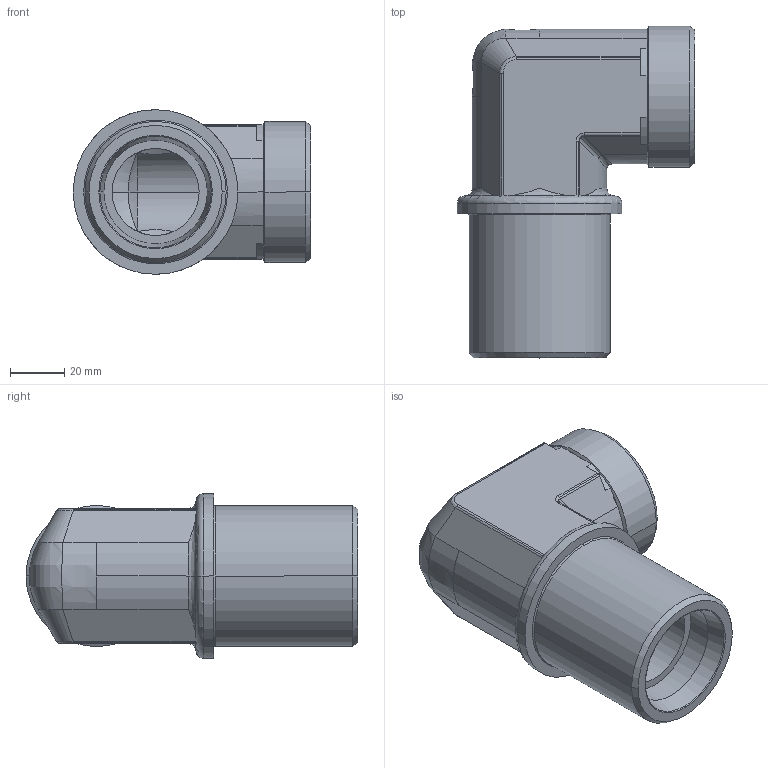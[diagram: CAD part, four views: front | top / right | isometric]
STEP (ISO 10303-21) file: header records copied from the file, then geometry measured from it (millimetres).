
FILE_DESCRIPTION((''),'2;1');
FILE_NAME('103723.stp','2007-10-31T11:45:12',(''),(''),'AutoCAD STEP 2000i','AutoCAD 2000i',', , ');
FILE_SCHEMA(('CONFIG_CONTROL_DESIGN'));
Length unit declared in the file: millimetre
Products named in the file (2): 103723.0; 3092#0
Assembly tree (1 placements, depth 2):
  103723.0
    3092#0
Bounding box: 87.25 x 121.91 x 60.5 mm (x, y, z)
Volume: 187649.8 mm3; surface area: 44340.7 mm2
Topology: 1 solids, 1 shells, 119 faces, 283 edges, 169 vertices
Faces by surface type: cylinder 50, plane 27, bspline 20, cone 18, torus 4
Entity records: 4824 total; most frequent: CARTESIAN_POINT 2012, DIRECTION 585, ORIENTED_EDGE 566, EDGE_CURVE 283, AXIS2_PLACEMENT_3D 244, VERTEX_POINT 169, CIRCLE 125, EDGE_LOOP 124
